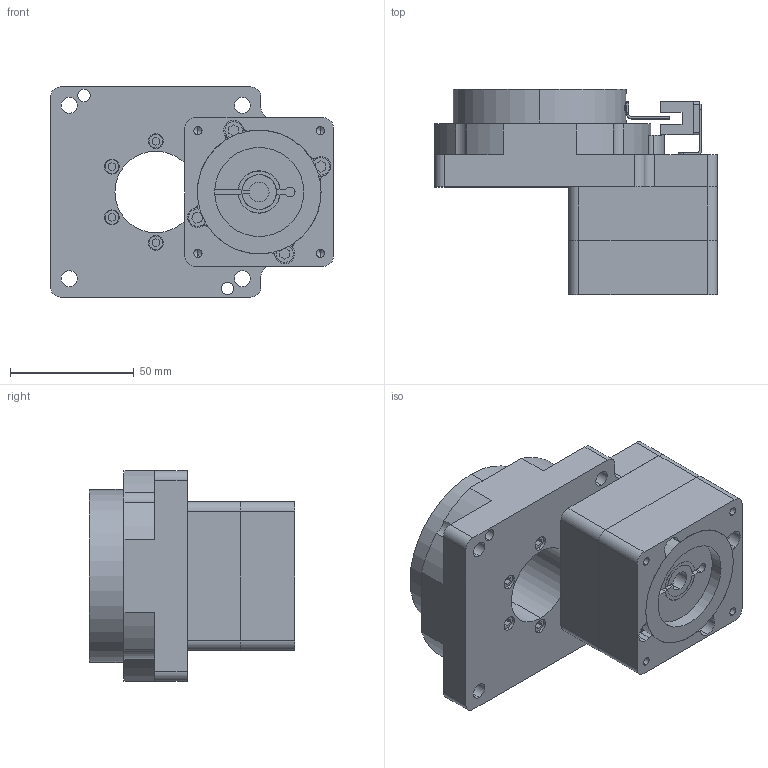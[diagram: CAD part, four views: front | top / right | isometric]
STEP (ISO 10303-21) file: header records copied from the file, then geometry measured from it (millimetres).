
FILE_DESCRIPTION(('Open CASCADE Model'),'2;1');
FILE_NAME('Open CASCADE Shape Model','2026-10-11T03:02:26',('Author'),( 'Open CASCADE'),'Open CASCADE STEP processor 7.8','Open CASCADE 7.8' ,'Unknown');
FILE_SCHEMA(('AUTOMOTIVE_DESIGN { 1 0 10303 214 1 1 1 1 }'));
Length unit declared in the file: millimetre
Products named in the file (6): 装配体2; NT85-K-10-M1(配伺服400W 输入14-50-70-M4); NT85-10(配伺服400W 输入14-32 50-5 4-M4-70)-01; NT85-10(配伺服400W 输入14-32 50-5 4-M4-70)-02; 14-8轴套; 步进垫圈50-36
Assembly tree (5 placements, depth 3):
  装配体2
    NT85-K-10-M1(配伺服400W 输入14-50-70-M4)
      NT85-10(配伺服400W 输入14-32 50-5 4-M4-70)-01
      NT85-10(配伺服400W 输入14-32 50-5 4-M4-70)-02
    14-8轴套
    步进垫圈50-36
Bounding box: 114.3 x 83 x 85 mm (x, y, z)
Volume: 350363.9 mm3; surface area: 78221.5 mm2
Topology: 8 solids, 14 shells, 1099 faces, 2976 edges, 1956 vertices
Faces by surface type: plane 837, cylinder 226, cone 36
Entity records: 72544 total; most frequent: CARTESIAN_POINT 15271, DIRECTION 10030, LINE 6708, VECTOR 6708, ORIENTED_EDGE 5880, PCURVE 5880, DEFINITIONAL_REPRESENTATION 5880, EDGE_CURVE 2940
